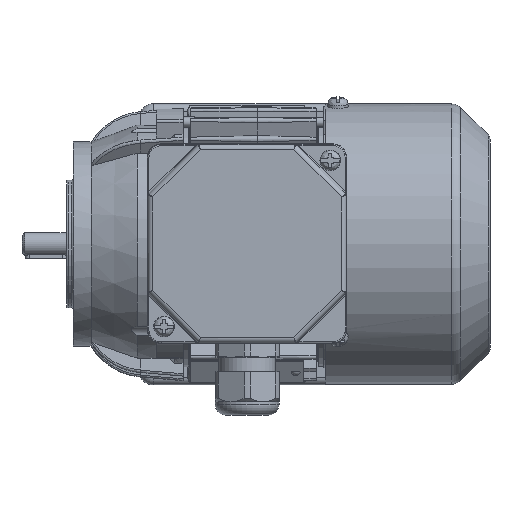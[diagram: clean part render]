
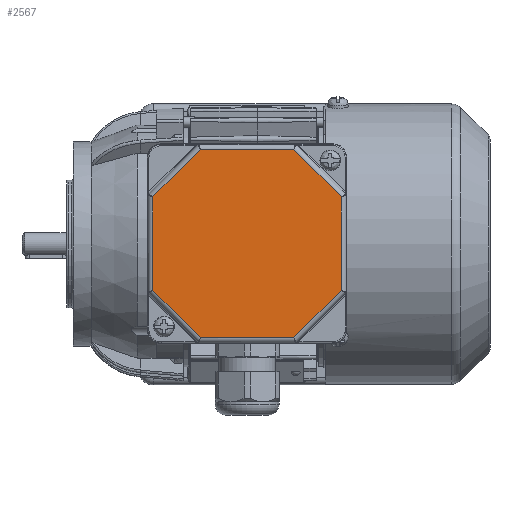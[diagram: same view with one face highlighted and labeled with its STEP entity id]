
A CAD part, top view. The second image highlights one B-rep face of the part: STEP entity #2567.
In plain terms, the highlighted planar face has unit normal (0, 0, 1).
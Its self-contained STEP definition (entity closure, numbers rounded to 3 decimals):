
#2567 = ADVANCED_FACE( '', ( #6358 ), #6359, .T. );
#6358 = FACE_OUTER_BOUND( '', #12215, .T. );
#6359 = PLANE( '', #12216 );
#12215 = EDGE_LOOP( '', ( #23905, #23906, #23907, #23908, #23909, #23910, #23911, #23912 ) );
#12216 = AXIS2_PLACEMENT_3D( '', #23913, #23914, #23915 );
#23905 = ORIENTED_EDGE( '', *, *, #39480, .T. );
#23906 = ORIENTED_EDGE( '', *, *, #39481, .T. );
#23907 = ORIENTED_EDGE( '', *, *, #39482, .T. );
#23908 = ORIENTED_EDGE( '', *, *, #39483, .T. );
#23909 = ORIENTED_EDGE( '', *, *, #39484, .T. );
#23910 = ORIENTED_EDGE( '', *, *, #39485, .T. );
#23911 = ORIENTED_EDGE( '', *, *, #39486, .T. );
#23912 = ORIENTED_EDGE( '', *, *, #39487, .T. );
#23913 = CARTESIAN_POINT( '', ( -39., 39., 12. ) );
#23914 = DIRECTION( '', ( 0., 0., 1. ) );
#23915 = DIRECTION( '', ( 1., 0., 0. ) );
#39480 = EDGE_CURVE( '', #46059, #46060, #46061, .F. );
#39481 = EDGE_CURVE( '', #46060, #46062, #46063, .T. );
#39482 = EDGE_CURVE( '', #46062, #46064, #46065, .F. );
#39483 = EDGE_CURVE( '', #46064, #46066, #46067, .T. );
#39484 = EDGE_CURVE( '', #46066, #46068, #46069, .F. );
#39485 = EDGE_CURVE( '', #46068, #46070, #46071, .T. );
#39486 = EDGE_CURVE( '', #46070, #46072, #46073, .F. );
#39487 = EDGE_CURVE( '', #46072, #46059, #46074, .T. );
#46059 = VERTEX_POINT( '', #55863 );
#46060 = VERTEX_POINT( '', #55864 );
#46061 = LINE( '', #55865, #55866 );
#46062 = VERTEX_POINT( '', #55867 );
#46063 = LINE( '', #55868, #55869 );
#46064 = VERTEX_POINT( '', #55870 );
#46065 = LINE( '', #55871, #55872 );
#46066 = VERTEX_POINT( '', #55873 );
#46067 = LINE( '', #55874, #55875 );
#46068 = VERTEX_POINT( '', #55876 );
#46069 = LINE( '', #55877, #55878 );
#46070 = VERTEX_POINT( '', #55879 );
#46071 = LINE( '', #55880, #55881 );
#46072 = VERTEX_POINT( '', #55882 );
#46073 = LINE( '', #55883, #55884 );
#46074 = LINE( '', #55885, #55886 );
#55863 = CARTESIAN_POINT( '', ( 36.825, -18.255, 12. ) );
#55864 = CARTESIAN_POINT( '', ( 36.825, 18.255, 12. ) );
#55865 = CARTESIAN_POINT( '', ( 36.825, 19.069, 12. ) );
#55866 = VECTOR( '', #72788, 1000. );
#55867 = CARTESIAN_POINT( '', ( 18.255, 36.825, 12. ) );
#55868 = CARTESIAN_POINT( '', ( 17.679, 37.401, 12. ) );
#55869 = VECTOR( '', #72789, 1000. );
#55870 = CARTESIAN_POINT( '', ( -18.255, 36.825, 12. ) );
#55871 = CARTESIAN_POINT( '', ( -19.069, 36.825, 12. ) );
#55872 = VECTOR( '', #72790, 1000. );
#55873 = CARTESIAN_POINT( '', ( -36.825, 18.255, 12. ) );
#55874 = CARTESIAN_POINT( '', ( -37.401, 17.679, 12. ) );
#55875 = VECTOR( '', #72791, 1000. );
#55876 = CARTESIAN_POINT( '', ( -36.825, -18.255, 12. ) );
#55877 = CARTESIAN_POINT( '', ( -36.825, -19.069, 12. ) );
#55878 = VECTOR( '', #72792, 1000. );
#55879 = CARTESIAN_POINT( '', ( -18.255, -36.825, 12. ) );
#55880 = CARTESIAN_POINT( '', ( -17.679, -37.401, 12. ) );
#55881 = VECTOR( '', #72793, 1000. );
#55882 = CARTESIAN_POINT( '', ( 18.255, -36.825, 12. ) );
#55883 = CARTESIAN_POINT( '', ( 19.069, -36.825, 12. ) );
#55884 = VECTOR( '', #72794, 1000. );
#55885 = CARTESIAN_POINT( '', ( 37.401, -17.679, 12. ) );
#55886 = VECTOR( '', #72795, 1000. );
#72788 = DIRECTION( '', ( 0., -1., 0. ) );
#72789 = DIRECTION( '', ( -0.707, 0.707, 0. ) );
#72790 = DIRECTION( '', ( 1., 0., 0. ) );
#72791 = DIRECTION( '', ( -0.707, -0.707, 0. ) );
#72792 = DIRECTION( '', ( 0., 1., 0. ) );
#72793 = DIRECTION( '', ( 0.707, -0.707, 0. ) );
#72794 = DIRECTION( '', ( -1., 0., 0. ) );
#72795 = DIRECTION( '', ( 0.707, 0.707, 0. ) );
